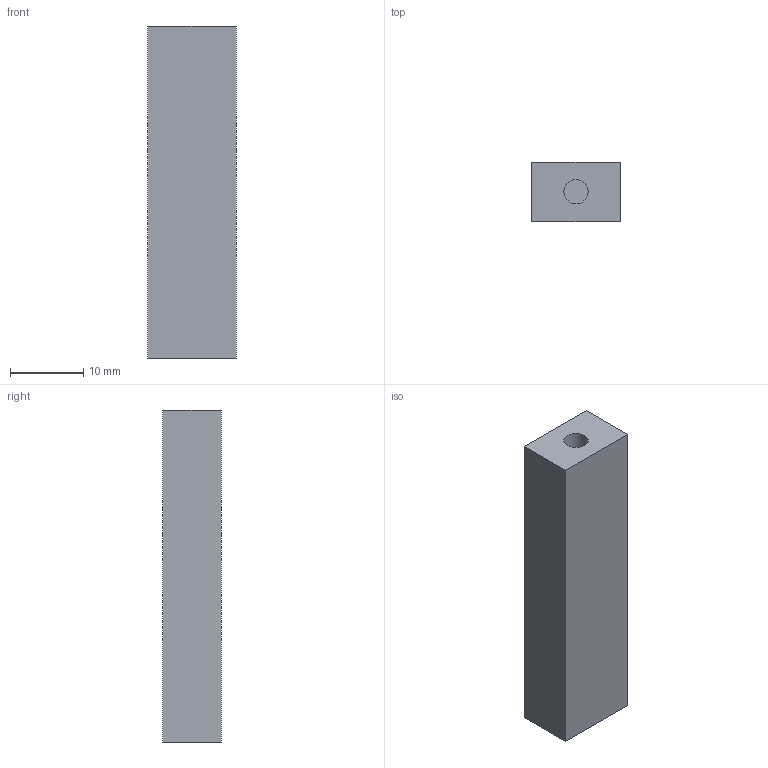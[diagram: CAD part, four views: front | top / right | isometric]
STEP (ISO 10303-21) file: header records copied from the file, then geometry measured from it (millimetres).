
FILE_DESCRIPTION(('Open CASCADE Model'),'2;1');
FILE_NAME('Open CASCADE Shape Model','2026-10-26T08:26:48',('Author'),( 'Open CASCADE'),'Open CASCADE STEP processor 7.8','Open CASCADE 7.8' ,'Unknown');
FILE_SCHEMA(('AUTOMOTIVE_DESIGN { 1 0 10303 214 1 1 1 1 }'));
Length unit declared in the file: millimetre
Products named in the file (1): Open CASCADE STEP translator 7.8 3
Bounding box: 12 x 8 x 45.2 mm (x, y, z)
Volume: 4202.4 mm3; surface area: 2165.9 mm2
Topology: 1 solids, 1 shells, 10 faces, 18 edges, 12 vertices
Faces by surface type: plane 8, cylinder 2
Full cylindrical faces by diameter (mm): 3.3 x2
Entity records: 490 total; most frequent: DIRECTION 80, CARTESIAN_POINT 77, LINE 46, VECTOR 46, ORIENTED_EDGE 36, PCURVE 36, DEFINITIONAL_REPRESENTATION 36, EDGE_CURVE 18
